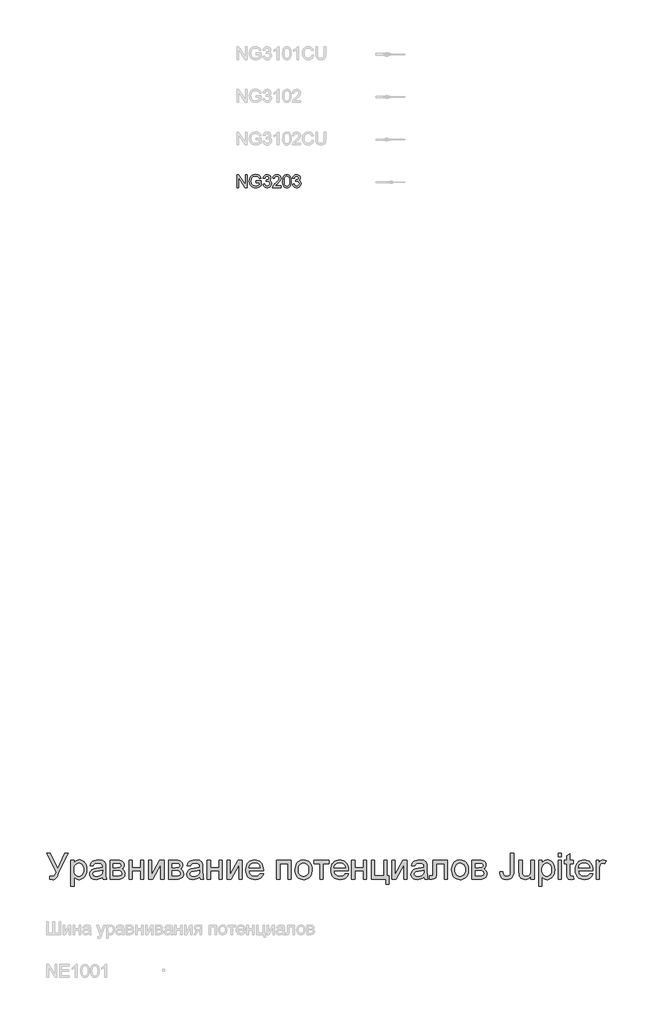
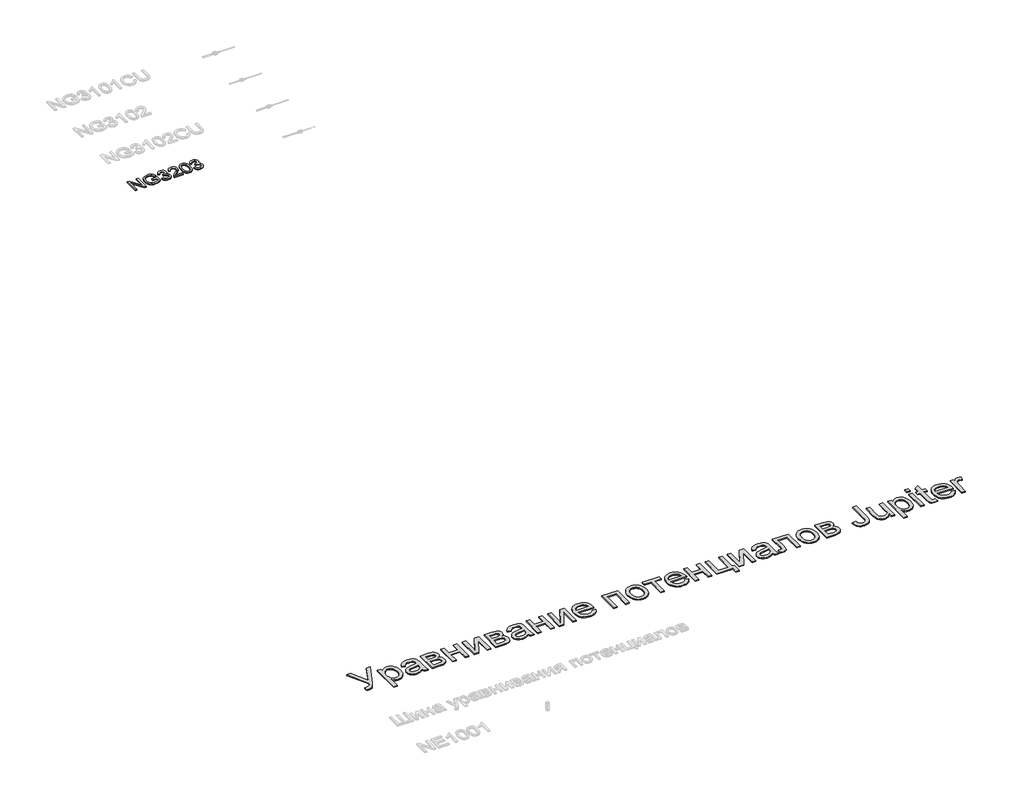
# One storey, part 83 of 124: 2 proxies.
"""IFC4 building model written with IfcOpenShell, lengths in millimetres."""

from ifc_helpers import new_model, si_unit, origin, origin_with_axes, place, context, project, spatial, polyline, outline, extrude, element, save

model = new_model("IFC4")

# Units and contexts
model_context = context("Model", 3, world=origin())
ifc_project = project(units=[si_unit("LENGTHUNIT", "METRE", prefix="MILLI")], contexts=[model_context])

# Site, building, storey
site = spatial("IfcSite", under=ifc_project)
building = spatial("IfcBuilding", under=site)
storey = spatial("IfcBuildingStorey", under=building, Name="Этаж 01", Elevation=0.0)

# Proxies
placement = place(None, origin())
element("IfcBuildingElementProxy", 1, Name="600 мм Arial", ObjectType="600 мм Arial", at=placement, inside=storey, context=model_context, shape_type="SweptSolid", body=[
    extrude(outline(polyline([(45230.4497591, -48171.7605011), (45313.8853956, -48171.7605011), (45494.1475732, -48528.7531892), (45656.3099567, -48171.7605011), (45739.0098292, -48171.7605011), (45510.1872282, -48641.3250797), (45475.6431089, -48714.2392912), (45447.9415946, -48756.6928734), (45434.4863106, -48768.603053), (45418.4006704, -48777.1103242), (45399.6846739, -48782.2146869), (45378.3383211, -48783.9161411), (45347.5465981, -48781.5616963), (45310.5008812, -48774.498362), (45310.5008812, -48708.5739085), (45369.8034588, -48708.5739085), (45393.5318475, -48704.3800537), (45413.8021455, -48691.7984895), (45433.263103, -48664.3177044), (45454.5634705, -48615.4261873), (45230.4497591, -48171.7605011)])), origin_with_axes(), (0.0, 0.0, 1.0), 20.0),
    extrude(outline(polyline([(45800.2253932, -48944.0183854), (45800.2253932, -48331.8627454), (45875.5676258, -48331.8627454), (45875.5676258, -48405.73345), (45900.1421431, -48369.2947384), (45927.6597163, -48343.2670873), (45959.7390263, -48327.6504966), (45997.9987538, -48322.4449663), (46024.2747253, -48324.2659822), (46048.9504101, -48329.7290298), (46072.0258083, -48338.8341092), (46093.5009198, -48351.5812203), (46112.906695, -48367.6392694), (46129.7740845, -48386.6771627), (46144.1030882, -48408.6949001), (46155.8937061, -48433.6924817), (46171.6758437, -48489.2058747), (46176.9365563, -48549.7960393), (46170.995262, -48614.2305708), (46163.5686443, -48643.8956552), (46153.1713794, -48671.8592853), (46139.9460216, -48697.3902958), (46124.0351254, -48719.7575211), (46105.4386905, -48738.9609613), (46084.1567171, -48755.0006163), (46061.2330703, -48767.6511584), (46037.7116152, -48776.6872599), (46013.5923519, -48782.1089208), (45988.8752803, -48783.9161411), (45954.2391905, -48779.0784928), (45923.3187088, -48764.5655481), (45896.8495992, -48742.6581753), (45875.5676258, -48715.6372428), (45875.5676258, -48944.0183854), (45800.2253932, -48944.0183854)]), holes=[polyline([(45875.5676258, -48556.7122209), (45877.6047724, -48593.0221738), (45883.716212, -48624.2553552), (45893.9019447, -48650.411765), (45908.1619706, -48671.4914034), (45925.3282642, -48687.7149993), (45944.2328002, -48699.3032822), (45964.8755787, -48706.2562519), (45987.2565996, -48708.5739085), (46009.9595172, -48706.1734784), (46030.9793747, -48698.9721884), (46050.316172, -48686.9700383), (46067.9699093, -48670.1670282), (46082.6805906, -48648.3240347), (46093.1882201, -48621.2019346), (46099.4927978, -48588.8007279), (46101.5943237, -48551.1204145), (46099.5433815, -48515.1231613), (46093.3905552, -48483.9451622), (46083.1358445, -48457.5864173), (46068.7792497, -48436.0469264), (46051.5715694, -48419.3082957), (46032.7636024, -48407.3521308), (46012.3553487, -48400.1784319), (45990.3468083, -48397.7871989), (45968.4072458, -48400.3301832), (45947.7644674, -48407.9591361), (45928.4184729, -48420.6740576), (45910.3692626, -48438.4749476), (45895.1435465, -48461.1226829), (45884.268035, -48488.3781403), (45877.7427281, -48520.2413196), (45875.5676258, -48556.7122209)])]), origin_with_axes(), (0.0, 0.0, 1.0), 20.0),
    extrude(outline(polyline([(46544.2299402, -48717.9916875), (46508.232687, -48748.8569869), (46471.168576, -48769.0537085), (46432.1914786, -48780.2005329), (46390.4552663, -48783.9161411), (46356.9090268, -48781.681258), (46327.4922628, -48774.9766086), (46302.2049741, -48763.802193), (46281.0471609, -48748.1580111), (46264.3407198, -48729.0373444), (46252.4075476, -48707.4334743), (46245.2476442, -48683.3464006), (46242.8610098, -48656.7761235), (46246.4662534, -48625.5429422), (46257.281984, -48597.1792403), (46273.9654325, -48572.8990286), (46295.1738295, -48553.9163177), (46320.0978347, -48539.5689199), (46347.9281076, -48529.1946476), (46413.1167972, -48517.8638822), (46490.151287, -48505.9445055), (46543.7884819, -48491.9649897), (46544.2299402, -48475.1895707), (46539.0428041, -48441.5651564), (46532.558884, -48429.1123508), (46523.4813957, -48419.5658131), (46507.7912286, -48410.0376694), (46488.679759, -48403.2318525), (46440.192912, -48397.7871989), (46395.3113086, -48401.4108366), (46363.9677626, -48412.2817496), (46342.5938187, -48432.3865006), (46327.6210215, -48463.7116525), (46252.2787889, -48454.2938734), (46265.3569938, -48413.0910899), (46284.8731336, -48380.7174744), (46312.6482243, -48355.9590161), (46350.5032816, -48337.6017045), (46396.8012307, -48326.2341509), (46449.9049967, -48322.4449663), (46500.8382589, -48325.7926925), (46541.2133079, -48335.835871), (46571.655543, -48350.9374269), (46592.7903636, -48369.4602853), (46606.8066676, -48392.3609395), (46615.8933529, -48420.5958826), (46619.5721729, -48486.5203362), (46619.5721729, -48580.2566685), (46623.3981456, -48711.1490824), (46629.0635283, -48743.5043039), (46638.407731, -48774.498362), (46563.0654984, -48774.498362), (46550.998969, -48748.3051639), (46544.2299402, -48717.9916875)]), holes=[polyline([(46544.2299402, -48567.3072223), (46493.6093777, -48579.8519984), (46422.681729, -48590.4102116), (46357.8609215, -48602.6238939), (46340.993532, -48610.9748151), (46328.5039383, -48622.4895216), (46320.7784164, -48636.2850964), (46318.2032424, -48651.4786228), (46323.8134428, -48673.8826363), (46340.6440441, -48692.2399479), (46368.3271643, -48704.4904183), (46406.4949213, -48708.5739085), (46446.9619407, -48704.067354), (46482.7200707, -48690.5476907), (46511.7091719, -48670.6268807), (46531.8691052, -48646.9168861), (46540.8086377, -48622.4895216), (46543.7884819, -48588.644378), (46544.2299402, -48567.3072223)])]), origin_with_axes(), (0.0, 0.0, 1.0), 20.0),
    extrude(outline(polyline([(46723.1677427, -48331.8627454), (46889.1560989, -48331.8627454), (46942.5173823, -48334.3827371), (46980.1701045, -48341.9427121), (47007.8716188, -48356.2165335), (47031.3792783, -48378.8780644), (47047.4373274, -48408.4005945), (47052.7900104, -48443.2574135), (47049.5526488, -48471.3452039), (47039.8405642, -48495.5702333), (47023.6169682, -48516.0428663), (47000.8450727, -48532.8734676), (47028.7305279, -48548.5268465), (47051.4656352, -48573.708369), (47066.5855852, -48606.4314725), (47071.6255685, -48644.7095941), (47067.4409108, -48675.5473023), (47058.8600633, -48702.1359736), (47045.8830259, -48724.4756077), (47028.5097987, -48742.5662048), (47006.7127905, -48756.5365236), (46980.4644101, -48766.5153227), (46949.7646576, -48772.5026022), (46914.613533, -48774.498362), (46723.1677427, -48774.498362), (46723.1677427, -48331.8627454)]), holes=[polyline([(46798.5099753, -48501.3827688), (46872.9692911, -48501.3827688), (46934.4055843, -48497.556796), (46950.2245101, -48491.8178369), (46964.2776023, -48482.252905), (46974.1552339, -48469.5977644), (46977.4477778, -48454.588179), (46976.0038409, -48442.3469056), (46971.6720304, -48432.1105891), (46964.4523463, -48423.8792294), (46954.3447885, -48417.6528267), (46923.0380307, -48409.8169402), (46875.3237359, -48407.204978), (46798.5099753, -48407.204978), (46798.5099753, -48501.3827688)]), polyline([(46798.5099753, -48699.1561294), (46890.9219325, -48699.1561294), (46941.2849776, -48695.7532209), (46972.886041, -48685.5444956), (46982.6808991, -48677.5016754), (46989.845401, -48666.9848489), (46996.2833359, -48638.5291766), (46993.0643685, -48619.6752243), (46983.4074661, -48602.2560119), (46968.5818217, -48588.6259839), (46949.8566281, -48581.1395853), (46883.5642926, -48576.7250014), (46798.5099753, -48576.7250014), (46798.5099753, -48699.1561294)])]), origin_with_axes(), (0.0, 0.0, 1.0), 20.0),
    extrude(outline(polyline([(47165.8033593, -48331.8627454), (47241.1455919, -48331.8627454), (47241.1455919, -48501.3827688), (47438.9189525, -48501.3827688), (47438.9189525, -48331.8627454), (47514.2611851, -48331.8627454), (47514.2611851, -48774.498362), (47438.9189525, -48774.498362), (47438.9189525, -48576.7250014), (47241.1455919, -48576.7250014), (47241.1455919, -48774.498362), (47165.8033593, -48774.498362), (47165.8033593, -48331.8627454)])), origin_with_axes(), (0.0, 0.0, 1.0), 20.0),
    extrude(outline(polyline([(47627.274534, -48331.8627454), (47702.6167667, -48331.8627454), (47702.6167667, -48669.4312642), (47887.7349866, -48331.8627454), (47985.150139, -48331.8627454), (47985.150139, -48774.498362), (47909.8079063, -48774.498362), (47909.8079063, -48438.9899824), (47725.8669088, -48774.498362), (47627.274534, -48774.498362), (47627.274534, -48331.8627454)])), origin_with_axes(), (0.0, 0.0, 1.0), 20.0),
    extrude(outline(polyline([(48098.1634879, -48331.8627454), (48264.1518441, -48331.8627454), (48317.5131275, -48334.3827371), (48355.1658497, -48341.9427121), (48382.8673639, -48356.2165335), (48406.3750234, -48378.8780644), (48422.4330725, -48408.4005945), (48427.7857556, -48443.2574135), (48424.548394, -48471.3452039), (48414.8363093, -48495.5702333), (48398.6127133, -48516.0428663), (48375.8408178, -48532.8734676), (48403.7262731, -48548.5268465), (48426.4613804, -48573.708369), (48441.5813304, -48606.4314725), (48446.6213137, -48644.7095941), (48442.436656, -48675.5473023), (48433.8558085, -48702.1359736), (48420.8787711, -48724.4756077), (48403.5055439, -48742.5662048), (48381.7085357, -48756.5365236), (48355.4601553, -48766.5153227), (48324.7604028, -48772.5026022), (48289.6092782, -48774.498362), (48098.1634879, -48774.498362), (48098.1634879, -48331.8627454)]), holes=[polyline([(48173.5057205, -48501.3827688), (48247.9650363, -48501.3827688), (48309.4013295, -48497.556796), (48325.2202553, -48491.8178369), (48339.2733475, -48482.252905), (48349.1509791, -48469.5977644), (48352.4435229, -48454.588179), (48350.9995861, -48442.3469056), (48346.6677756, -48432.1105891), (48339.4480915, -48423.8792294), (48329.3405336, -48417.6528267), (48298.0337759, -48409.8169402), (48250.3194811, -48407.204978), (48173.5057205, -48407.204978), (48173.5057205, -48501.3827688)]), polyline([(48173.5057205, -48699.1561294), (48265.9176777, -48699.1561294), (48316.2807228, -48695.7532209), (48347.8817862, -48685.5444956), (48357.6766443, -48677.5016754), (48364.8411462, -48666.9848489), (48371.2790811, -48638.5291766), (48368.0601136, -48619.6752243), (48358.4032113, -48602.2560119), (48343.5775669, -48588.6259839), (48324.8523733, -48581.1395853), (48258.5600378, -48576.7250014), (48173.5057205, -48576.7250014), (48173.5057205, -48699.1561294)])]), origin_with_axes(), (0.0, 0.0, 1.0), 20.0),
    extrude(outline(polyline([(48823.3324768, -48717.9916875), (48787.3352235, -48748.8569869), (48750.2711125, -48769.0537085), (48711.2940151, -48780.2005329), (48669.5578028, -48783.9161411), (48636.0115633, -48781.681258), (48606.5947993, -48774.9766086), (48581.3075107, -48763.802193), (48560.1496974, -48748.1580111), (48543.4432563, -48729.0373444), (48531.5100841, -48707.4334743), (48524.3501808, -48683.3464006), (48521.9635463, -48656.7761235), (48525.5687899, -48625.5429422), (48536.3845205, -48597.1792403), (48553.067969, -48572.8990286), (48574.276366, -48553.9163177), (48599.2003712, -48539.5689199), (48627.0306441, -48529.1946476), (48692.2193337, -48517.8638822), (48769.2538235, -48505.9445055), (48822.8910184, -48491.9649897), (48823.3324768, -48475.1895707), (48818.1453406, -48441.5651564), (48811.6614205, -48429.1123508), (48802.5839322, -48419.5658131), (48786.8937651, -48410.0376694), (48767.7822955, -48403.2318525), (48719.2954485, -48397.7871989), (48674.4138451, -48401.4108366), (48643.0702991, -48412.2817496), (48621.6963552, -48432.3865006), (48606.723558, -48463.7116525), (48531.3813254, -48454.2938734), (48544.4595303, -48413.0910899), (48563.9756702, -48380.7174744), (48591.7507608, -48355.9590161), (48629.6058181, -48337.6017045), (48675.9037672, -48326.2341509), (48729.0075332, -48322.4449663), (48779.9407954, -48325.7926925), (48820.3158444, -48335.835871), (48850.7580795, -48350.9374269), (48871.8929001, -48369.4602853), (48885.9092041, -48392.3609395), (48894.9958894, -48420.5958826), (48898.6747094, -48486.5203362), (48898.6747094, -48580.2566685), (48902.5006821, -48711.1490824), (48908.1660649, -48743.5043039), (48917.5102675, -48774.498362), (48842.1680349, -48774.498362), (48830.1015055, -48748.3051639), (48823.3324768, -48717.9916875)]), holes=[polyline([(48823.3324768, -48567.3072223), (48772.7119142, -48579.8519984), (48701.7842656, -48590.4102116), (48636.963458, -48602.6238939), (48620.0960685, -48610.9748151), (48607.6064748, -48622.4895216), (48599.8809529, -48636.2850964), (48597.3057789, -48651.4786228), (48602.9159794, -48673.8826363), (48619.7465806, -48692.2399479), (48647.4297008, -48704.4904183), (48685.5974578, -48708.5739085), (48726.0644772, -48704.067354), (48761.8226072, -48690.5476907), (48790.8117084, -48670.6268807), (48810.9716417, -48646.9168861), (48819.9111742, -48622.4895216), (48822.8910184, -48588.644378), (48823.3324768, -48567.3072223)])]), origin_with_axes(), (0.0, 0.0, 1.0), 20.0),
    extrude(outline(polyline([(49002.2702792, -48331.8627454), (49077.6125118, -48331.8627454), (49077.6125118, -48501.3827688), (49275.3858724, -48501.3827688), (49275.3858724, -48331.8627454), (49350.7281051, -48331.8627454), (49350.7281051, -48774.498362), (49275.3858724, -48774.498362), (49275.3858724, -48576.7250014), (49077.6125118, -48576.7250014), (49077.6125118, -48774.498362), (49002.2702792, -48774.498362), (49002.2702792, -48331.8627454)])), origin_with_axes(), (0.0, 0.0, 1.0), 20.0),
    extrude(outline(polyline([(49463.741454, -48331.8627454), (49539.0836866, -48331.8627454), (49539.0836866, -48669.4312642), (49724.2019066, -48331.8627454), (49821.6170589, -48331.8627454), (49821.6170589, -48774.498362), (49746.2748263, -48774.498362), (49746.2748263, -48438.9899824), (49562.3338287, -48774.498362), (49463.741454, -48774.498362), (49463.741454, -48331.8627454)])), origin_with_axes(), (0.0, 0.0, 1.0), 20.0),
    extrude(outline(polyline([(50244.5342005, -48642.6494549), (50318.4049052, -48652.067234), (50307.0787382, -48681.6541435), (50291.7886428, -48707.7277799), (50272.5346189, -48730.2881432), (50249.3166665, -48749.3352335), (50222.3739088, -48764.4643806), (50191.9454693, -48775.2709142), (50158.0313479, -48781.7548344), (50120.6315446, -48783.9161411), (50073.88294, -48780.1867374), (50032.2295011, -48768.9985262), (49995.6712278, -48750.3515075), (49964.2081202, -48724.2456815), (49938.907036, -48691.4076149), (49920.834833, -48652.5638747), (49909.9915112, -48607.714461), (49906.3770706, -48556.8593737), (49910.0282994, -48504.2798395), (49920.9819858, -48457.9359052), (49939.2381298, -48417.8275706), (49964.7967314, -48383.9548359), (49996.1770656, -48357.044268), (50031.8984073, -48337.8224337), (50071.9607566, -48326.2893332), (50116.3641134, -48322.4449663), (50159.337329, -48326.2801361), (50198.1994632, -48337.7856455), (50232.9505162, -48356.9614945), (50263.5904879, -48383.8076831), (50288.601865, -48417.6068414), (50306.4671344, -48457.6415996), (50317.1862961, -48503.9119575), (50320.7593499, -48556.4179153), (50320.3178915, -48576.7250014), (49981.7193032, -48576.7250014), (49986.0833033, -48606.7901575), (49994.7607199, -48633.1213113), (50007.7515529, -48655.7184628), (50025.0558022, -48674.5816121), (50045.7169748, -48689.4532418), (50068.7785773, -48700.0758344), (50094.2406099, -48706.4493899), (50122.1030725, -48708.5739085), (50162.20221, -48704.6375711), (50195.9737772, -48692.8285591), (50223.417774, -48672.4111083), (50244.5342005, -48642.6494549)]), holes=[polyline([(49981.7193032, -48501.3827688), (50245.4171173, -48501.3827688), (50235.2267861, -48461.5779369), (50226.4619975, -48445.924558), (50215.2507937, -48433.1038705), (50194.7045843, -48417.6528267), (50171.3256835, -48406.6163668), (50145.1140913, -48399.9944909), (50116.0698078, -48397.7871989), (50089.5777056, -48399.548434), (50065.2836984, -48404.8321391), (50043.187786, -48413.6383144), (50023.2899686, -48425.9669598), (50006.5927246, -48441.2478581), (49994.0985323, -48458.9107924), (49985.8073919, -48478.9557627), (49981.7193032, -48501.3827688)])]), origin_with_axes(), (0.0, 0.0, 1.0), 20.0),
    extrude(outline(polyline([(50631.5460595, -48331.8627454), (50970.5861062, -48331.8627454), (50970.5861062, -48774.498362), (50895.2438736, -48774.498362), (50895.2438736, -48407.204978), (50706.8882921, -48407.204978), (50706.8882921, -48774.498362), (50631.5460595, -48774.498362), (50631.5460595, -48331.8627454)])), origin_with_axes(), (0.0, 0.0, 1.0), 20.0),
    extrude(outline(polyline([(51064.763897, -48553.1805537), (51068.8381901, -48495.8553418), (51081.0610694, -48446.4579869), (51101.4325348, -48404.988489), (51129.9525865, -48371.4468481), (51158.6657762, -48350.0085248), (51190.3588101, -48334.6954368), (51225.0316882, -48325.5075839), (51262.6844104, -48322.4449663), (51304.2504773, -48326.1743701), (51341.8342216, -48337.3625812), (51375.4356434, -48356.0095999), (51405.0547425, -48382.1154259), (51429.2291881, -48414.7971427), (51446.4966493, -48453.1718333), (51456.857126, -48497.2394978), (51460.3106182, -48547.0001362), (51458.7839079, -48587.3291999), (51454.2037771, -48623.114921), (51446.5702257, -48654.3572994), (51435.8832537, -48681.0563352), (51422.2762184, -48704.1179378), (51405.882477, -48724.4480166), (51386.7020295, -48742.0465715), (51364.7348758, -48756.9136026), (51340.8363417, -48768.7272132), (51315.8617528, -48777.1655065), (51289.811109, -48782.2284824), (51262.6844104, -48783.9161411), (51220.5113382, -48780.2005329), (51182.5781059, -48769.0537085), (51148.8847137, -48750.4756677), (51119.4311615, -48724.4664107), (51095.5142333, -48691.4673957), (51078.4307131, -48651.9200812), (51068.180601, -48605.8244672), (51064.763897, -48553.1805537)]), holes=[polyline([(51140.1061296, -48553.0334009), (51142.2858304, -48589.5778786), (51148.8249329, -48621.2203287), (51159.723437, -48647.9607512), (51174.9813427, -48669.7991462), (51193.5409894, -48686.7631047), (51214.3447162, -48698.8802179), (51237.3925232, -48706.1504858), (51262.6844104, -48708.5739085), (51287.8475389, -48706.1366902), (51310.8033754, -48698.8250356), (51331.5519199, -48686.6389445), (51350.0931724, -48669.578417), (51365.3510782, -48647.5238914), (51376.2495823, -48620.355806), (51382.7886848, -48588.0741609), (51384.9683856, -48550.6789561), (51382.7748892, -48515.2933067), (51376.1944, -48484.4785911), (51365.226918, -48458.2348093), (51349.8724432, -48436.5619612), (51331.2622128, -48419.5980027), (51310.5274639, -48407.4808895), (51287.6681964, -48400.2106216), (51262.6844104, -48397.7871989), (51237.3925232, -48400.2014245), (51214.3447162, -48407.4441013), (51193.5409894, -48419.5152293), (51174.9813427, -48436.4148084), (51159.723437, -48458.188824), (51148.8249329, -48484.8832613), (51142.2858304, -48516.4981203), (51140.1061296, -48553.0334009)])]), origin_with_axes(), (0.0, 0.0, 1.0), 20.0),
    extrude(outline(polyline([(51507.3995136, -48331.8627454), (51865.2751185, -48331.8627454), (51865.2751185, -48407.204978), (51724.0084323, -48407.204978), (51724.0084323, -48774.498362), (51648.6661997, -48774.498362), (51648.6661997, -48407.204978), (51507.3995136, -48407.204978), (51507.3995136, -48331.8627454)])), origin_with_axes(), (0.0, 0.0, 1.0), 20.0),
    extrude(outline(polyline([(52241.1033648, -48642.6494549), (52314.9740694, -48652.067234), (52303.6479025, -48681.6541435), (52288.357807, -48707.7277799), (52269.1037831, -48730.2881432), (52245.8858307, -48749.3352335), (52218.9430731, -48764.4643806), (52188.5146335, -48775.2709142), (52154.6005121, -48781.7548344), (52117.2007088, -48783.9161411), (52070.4521042, -48780.1867374), (52028.7986653, -48768.9985262), (51992.2403921, -48750.3515075), (51960.7772844, -48724.2456815), (51935.4762002, -48691.4076149), (51917.4039972, -48652.5638747), (51906.5606754, -48607.714461), (51902.9462348, -48556.8593737), (51906.5974636, -48504.2798395), (51917.55115, -48457.9359052), (51935.807294, -48417.8275706), (51961.3658956, -48383.9548359), (51992.7462298, -48357.044268), (52028.4675715, -48337.8224337), (52068.5299208, -48326.2893332), (52112.9332776, -48322.4449663), (52155.9064932, -48326.2801361), (52194.7686275, -48337.7856455), (52229.5196804, -48356.9614945), (52260.1596521, -48383.8076831), (52285.1710293, -48417.6068414), (52303.0362986, -48457.6415996), (52313.7554603, -48503.9119575), (52317.3285142, -48556.4179153), (52316.8870558, -48576.7250014), (51978.2884674, -48576.7250014), (51982.6524676, -48606.7901575), (51991.3298841, -48633.1213113), (52004.3207171, -48655.7184628), (52021.6249664, -48674.5816121), (52042.286139, -48689.4532418), (52065.3477416, -48700.0758344), (52090.8097742, -48706.4493899), (52118.6722368, -48708.5739085), (52158.7713742, -48704.6375711), (52192.5429414, -48692.8285591), (52219.9869382, -48672.4111083), (52241.1033648, -48642.6494549)]), holes=[polyline([(51978.2884674, -48501.3827688), (52241.9862815, -48501.3827688), (52231.7959503, -48461.5779369), (52223.0311617, -48445.924558), (52211.8199579, -48433.1038705), (52191.2737485, -48417.6528267), (52167.8948477, -48406.6163668), (52141.6832556, -48399.9944909), (52112.638972, -48397.7871989), (52086.1468699, -48399.548434), (52061.8528626, -48404.8321391), (52039.7569503, -48413.6383144), (52019.8591329, -48425.9669598), (52003.1618888, -48441.2478581), (51990.6676965, -48458.9107924), (51982.3765561, -48478.9557627), (51978.2884674, -48501.3827688)])]), origin_with_axes(), (0.0, 0.0, 1.0), 20.0),
    extrude(outline(polyline([(52392.6707468, -48331.8627454), (52468.0129794, -48331.8627454), (52468.0129794, -48501.3827688), (52665.78634, -48501.3827688), (52665.78634, -48331.8627454), (52741.1285726, -48331.8627454), (52741.1285726, -48774.498362), (52665.78634, -48774.498362), (52665.78634, -48576.7250014), (52468.0129794, -48576.7250014), (52468.0129794, -48774.498362), (52392.6707468, -48774.498362), (52392.6707468, -48331.8627454)])), origin_with_axes(), (0.0, 0.0, 1.0), 20.0),
    extrude(outline(polyline([(52854.1419215, -48331.8627454), (52929.4841541, -48331.8627454), (52929.4841541, -48699.1561294), (53146.0930729, -48699.1561294), (53146.0930729, -48331.8627454), (53221.4353055, -48331.8627454), (53221.4353055, -48699.1561294), (53268.5242009, -48699.1561294), (53268.5242009, -48896.92949), (53193.1819683, -48896.92949), (53193.1819683, -48774.498362), (52854.1419215, -48774.498362), (52854.1419215, -48331.8627454)])), origin_with_axes(), (0.0, 0.0, 1.0), 20.0),
    extrude(outline(polyline([(53334.4486544, -48331.8627454), (53409.790887, -48331.8627454), (53409.790887, -48669.4312642), (53594.909107, -48331.8627454), (53692.3242593, -48331.8627454), (53692.3242593, -48774.498362), (53616.9820267, -48774.498362), (53616.9820267, -48438.9899824), (53433.0410291, -48774.498362), (53334.4486544, -48774.498362), (53334.4486544, -48331.8627454)])), origin_with_axes(), (0.0, 0.0, 1.0), 20.0),
    extrude(outline(polyline([(54087.8709805, -48717.9916875), (54051.8737273, -48748.8569869), (54014.8096163, -48769.0537085), (53975.8325189, -48780.2005329), (53934.0963066, -48783.9161411), (53900.5500671, -48781.681258), (53871.1333031, -48774.9766086), (53845.8460144, -48763.802193), (53824.6882012, -48748.1580111), (53807.9817601, -48729.0373444), (53796.0485879, -48707.4334743), (53788.8886845, -48683.3464006), (53786.5020501, -48656.7761235), (53790.1072936, -48625.5429422), (53800.9230243, -48597.1792403), (53817.6064728, -48572.8990286), (53838.8148698, -48553.9163177), (53863.738875, -48539.5689199), (53891.5691479, -48529.1946476), (53956.7578375, -48517.8638822), (54033.7923273, -48505.9445055), (54087.4295222, -48491.9649897), (54087.8709805, -48475.1895707), (54082.6838444, -48441.5651564), (54076.1999242, -48429.1123508), (54067.122436, -48419.5658131), (54051.4322689, -48410.0376694), (54032.3207993, -48403.2318525), (53983.8339523, -48397.7871989), (53938.9523489, -48401.4108366), (53907.6088029, -48412.2817496), (53886.234859, -48432.3865006), (53871.2620618, -48463.7116525), (53795.9198292, -48454.2938734), (53808.9980341, -48413.0910899), (53828.5141739, -48380.7174744), (53856.2892646, -48355.9590161), (53894.1443219, -48337.6017045), (53940.442271, -48326.2341509), (53993.546037, -48322.4449663), (54044.4792992, -48325.7926925), (54084.8543482, -48335.835871), (54115.2965833, -48350.9374269), (54136.4314039, -48369.4602853), (54150.4477079, -48392.3609395), (54159.5343932, -48420.5958826), (54163.2132132, -48486.5203362), (54163.2132132, -48580.2566685), (54167.0391859, -48711.1490824), (54172.7045686, -48743.5043039), (54182.0487713, -48774.498362), (54106.7065387, -48774.498362), (54094.6400093, -48748.3051639), (54087.8709805, -48717.9916875)]), holes=[polyline([(54087.8709805, -48567.3072223), (54037.250418, -48579.8519984), (53966.3227693, -48590.4102116), (53901.5019618, -48602.6238939), (53884.6345723, -48610.9748151), (53872.1449786, -48622.4895216), (53864.4194567, -48636.2850964), (53861.8442827, -48651.4786228), (53867.4544831, -48673.8826363), (53884.2850844, -48692.2399479), (53911.9682046, -48704.4904183), (53950.1359616, -48708.5739085), (53990.602981, -48704.067354), (54026.361111, -48690.5476907), (54055.3502122, -48670.6268807), (54075.5101455, -48646.9168861), (54084.449678, -48622.4895216), (54087.4295222, -48588.644378), (54087.8709805, -48567.3072223)])]), origin_with_axes(), (0.0, 0.0, 1.0), 20.0),
    extrude(outline(polyline([(54304.4798993, -48331.8627454), (54643.5199461, -48331.8627454), (54643.5199461, -48774.0569036), (54568.1777134, -48774.0569036), (54568.1777134, -48407.204978), (54379.8221319, -48407.204978), (54379.8221319, -48618.3692432), (54378.552939, -48679.6583836), (54374.7453604, -48715.7843956), (54365.2356108, -48737.8389212), (54346.8599051, -48756.9136026), (54318.9744499, -48770.1021722), (54280.9354516, -48774.498362), (54219.7198876, -48770.6723893), (54219.7198876, -48699.1561294), (54253.4178784, -48699.1561294), (54273.8537232, -48697.9973011), (54287.4837511, -48694.5208163), (54296.0002193, -48688.5243397), (54301.0953849, -48679.8055364), (54304.4798993, -48614.1018121), (54304.4798993, -48331.8627454)])), origin_with_axes(), (0.0, 0.0, 1.0), 20.0),
    extrude(outline(polyline([(54737.6977368, -48553.1805537), (54741.7720299, -48495.8553418), (54753.9949092, -48446.4579869), (54774.3663747, -48404.988489), (54802.8864264, -48371.4468481), (54831.5996161, -48350.0085248), (54863.29265, -48334.6954368), (54897.965528, -48325.5075839), (54935.6182502, -48322.4449663), (54977.1843172, -48326.1743701), (55014.7680615, -48337.3625812), (55048.3694832, -48356.0095999), (55077.9885824, -48382.1154259), (55102.163028, -48414.7971427), (55119.4304891, -48453.1718333), (55129.7909658, -48497.2394978), (55133.244458, -48547.0001362), (55131.7177478, -48587.3291999), (55127.1376169, -48623.114921), (55119.5040655, -48654.3572994), (55108.8170936, -48681.0563352), (55095.2100583, -48704.1179378), (55078.8163169, -48724.4480166), (55059.6358693, -48742.0465715), (55037.6687157, -48756.9136026), (55013.7701816, -48768.7272132), (54988.7955926, -48777.1655065), (54962.7449488, -48782.2284824), (54935.6182502, -48783.9161411), (54893.445178, -48780.2005329), (54855.5119458, -48769.0537085), (54821.8185535, -48750.4756677), (54792.3650013, -48724.4664107), (54768.4480731, -48691.4673957), (54751.3645529, -48651.9200812), (54741.1144409, -48605.8244672), (54737.6977368, -48553.1805537)]), holes=[polyline([(54813.0399694, -48553.0334009), (54815.2196703, -48589.5778786), (54821.7587727, -48621.2203287), (54832.6572768, -48647.9607512), (54847.9151826, -48669.7991462), (54866.4748292, -48686.7631047), (54887.2785561, -48698.8802179), (54910.3263631, -48706.1504858), (54935.6182502, -48708.5739085), (54960.7813787, -48706.1366902), (54983.7372152, -48698.8250356), (55004.4857597, -48686.6389445), (55023.0270123, -48669.578417), (55038.284918, -48647.5238914), (55049.1834221, -48620.355806), (55055.7225246, -48588.0741609), (55057.9022254, -48550.6789561), (55055.708729, -48515.2933067), (55049.1282398, -48484.4785911), (55038.1607579, -48458.2348093), (55022.8062831, -48436.5619612), (55004.1960527, -48419.5980027), (54983.4613037, -48407.4808895), (54960.6020362, -48400.2106216), (54935.6182502, -48397.7871989), (54910.3263631, -48400.2014245), (54887.2785561, -48407.4441013), (54866.4748292, -48419.5152293), (54847.9151826, -48436.4148084), (54832.6572768, -48458.188824), (54821.7587727, -48484.8832613), (54815.2196703, -48516.4981203), (54813.0399694, -48553.0334009)])]), origin_with_axes(), (0.0, 0.0, 1.0), 20.0),
    extrude(outline(polyline([(55218.0044697, -48331.8627454), (55383.992826, -48331.8627454), (55437.3541094, -48334.3827371), (55475.0068316, -48341.9427121), (55502.7083458, -48356.2165335), (55526.2160053, -48378.8780644), (55542.2740544, -48408.4005945), (55547.6267374, -48443.2574135), (55544.3893758, -48471.3452039), (55534.6772912, -48495.5702333), (55518.4536952, -48516.0428663), (55495.6817997, -48532.8734676), (55523.5672549, -48548.5268465), (55546.3023622, -48573.708369), (55561.4223122, -48606.4314725), (55566.4622956, -48644.7095941), (55562.2776379, -48675.5473023), (55553.6967903, -48702.1359736), (55540.7197529, -48724.4756077), (55523.3465257, -48742.5662048), (55501.5495175, -48756.5365236), (55475.3011372, -48766.5153227), (55444.6013847, -48772.5026022), (55409.45026, -48774.498362), (55218.0044697, -48774.498362), (55218.0044697, -48331.8627454)]), holes=[polyline([(55293.3467023, -48501.3827688), (55367.8060182, -48501.3827688), (55429.2423114, -48497.556796), (55445.0612372, -48491.8178369), (55459.1143294, -48482.252905), (55468.9919609, -48469.5977644), (55472.2845048, -48454.588179), (55470.840568, -48442.3469056), (55466.5087575, -48432.1105891), (55459.2890733, -48423.8792294), (55449.1815155, -48417.6528267), (55417.8747577, -48409.8169402), (55370.1604629, -48407.204978), (55293.3467023, -48407.204978), (55293.3467023, -48501.3827688)]), polyline([(55293.3467023, -48699.1561294), (55385.7586595, -48699.1561294), (55436.1217047, -48695.7532209), (55467.7227681, -48685.5444956), (55477.5176262, -48677.5016754), (55484.682128, -48666.9848489), (55491.1200629, -48638.5291766), (55487.9010955, -48619.6752243), (55478.2441931, -48602.2560119), (55463.4185487, -48588.6259839), (55444.6933552, -48581.1395853), (55378.4010196, -48576.7250014), (55293.3467023, -48576.7250014), (55293.3467023, -48699.1561294)])]), origin_with_axes(), (0.0, 0.0, 1.0), 20.0),
    extrude(outline(polyline([(55867.831226, -48605.2726442), (55943.1734586, -48595.5605595), (55945.831406, -48625.515351), (55951.0093451, -48650.3381886), (55958.7072759, -48670.0290724), (55968.9251983, -48684.5880024), (55981.5067625, -48695.0818363), (55996.2956187, -48702.5774319), (56013.2917669, -48707.0747893), (56032.495207, -48708.5739085), (56060.32548, -48705.171), (56084.0722628, -48694.9622746), (56102.3927861, -48678.8858315), (56113.9442808, -48657.8797695), (56120.069516, -48627.4743226), (56122.1112611, -48583.1997245), (56122.1112611, -48171.7605011), (56197.4534937, -48171.7605011), (56197.4534937, -48581.8753493), (56192.910151, -48648.9586311), (56187.2309727, -48676.0853298), (56179.2801231, -48698.9354002), (56168.8598656, -48718.4193504), (56155.7724636, -48735.4476882), (56140.0179172, -48750.0204137), (56121.5962263, -48762.137527), (56078.6827915, -48778.4714875), (56028.9635399, -48783.9161411), (55991.8350495, -48781.1064423), (55959.3234782, -48772.6773461), (55931.4288259, -48758.6288524), (55908.1510927, -48738.9609613), (55889.9041457, -48713.747249), (55877.1018523, -48683.0612921), (55869.7442124, -48646.9030905), (55867.831226, -48605.2726442)])), origin_with_axes(), (0.0, 0.0, 1.0), 20.0),
    extrude(outline(polyline([(56602.417994, -48774.498362), (56602.417994, -48698.4203654), (56575.1579381, -48735.8247673), (56543.409722, -48762.5421972), (56507.1733454, -48778.5726551), (56466.4488086, -48783.9161411), (56429.7525795, -48780.1637447), (56395.5947363, -48768.9065557), (56366.9367289, -48751.9839839), (56346.7400073, -48731.2354394), (56333.1467676, -48706.0355227), (56324.2992056, -48675.7588345), (56319.8846217, -48605.7141026), (56319.8846217, -48331.8627454), (56395.2268543, -48331.8627454), (56395.2268543, -48570.2502783), (56396.3672885, -48617.9277849), (56399.788591, -48647.0640389), (56410.7698686, -48672.6870198), (56429.5870326, -48692.1663715), (56454.9892844, -48704.4720242), (56485.7258251, -48708.5739085), (56518.2281994, -48704.3800537), (56548.6336463, -48691.7984895), (56573.7048043, -48671.988044), (56590.2043117, -48646.1075457), (56599.3645734, -48610.6621154), (56602.417994, -48562.1568744), (56602.417994, -48331.8627454), (56677.7602266, -48331.8627454), (56677.7602266, -48774.498362), (56602.417994, -48774.498362)])), origin_with_axes(), (0.0, 0.0, 1.0), 20.0),
    extrude(outline(polyline([(56781.3557964, -48944.0183854), (56781.3557964, -48331.8627454), (56856.698029, -48331.8627454), (56856.698029, -48405.73345), (56881.2725463, -48369.2947384), (56908.7901196, -48343.2670873), (56940.8694295, -48327.6504966), (56979.129157, -48322.4449663), (57005.4051285, -48324.2659822), (57030.0808134, -48329.7290298), (57053.1562115, -48338.8341092), (57074.631323, -48351.5812203), (57094.0370982, -48367.6392694), (57110.9044877, -48386.6771627), (57125.2334914, -48408.6949001), (57137.0241094, -48433.6924817), (57152.806247, -48489.2058747), (57158.0669595, -48549.7960393), (57152.1256653, -48614.2305708), (57144.6990475, -48643.8956552), (57134.3017826, -48671.8592853), (57121.0764249, -48697.3902958), (57105.1655286, -48719.7575211), (57086.5690937, -48738.9609613), (57065.2871203, -48755.0006163), (57042.3634735, -48767.6511584), (57018.8420184, -48776.6872599), (56994.7227551, -48782.1089208), (56970.0056836, -48783.9161411), (56935.3695937, -48779.0784928), (56904.449112, -48764.5655481), (56877.9800025, -48742.6581753), (56856.698029, -48715.6372428), (56856.698029, -48944.0183854), (56781.3557964, -48944.0183854)]), holes=[polyline([(56856.698029, -48556.7122209), (56858.7351756, -48593.0221738), (56864.8466152, -48624.2553552), (56875.032348, -48650.411765), (56889.2923738, -48671.4914034), (56906.4586674, -48687.7149993), (56925.3632034, -48699.3032822), (56946.0059819, -48706.2562519), (56968.3870028, -48708.5739085), (56991.0899204, -48706.1734784), (57012.1097779, -48698.9721884), (57031.4465753, -48686.9700383), (57049.1003125, -48670.1670282), (57063.8109938, -48648.3240347), (57074.3186233, -48621.2019346), (57080.623201, -48588.8007279), (57082.7247269, -48551.1204145), (57080.6737848, -48515.1231613), (57074.5209584, -48483.9451622), (57064.2662478, -48457.5864173), (57049.9096529, -48436.0469264), (57032.7019726, -48419.3082957), (57013.8940056, -48407.3521308), (56993.4857519, -48400.1784319), (56971.4772115, -48397.7871989), (56949.5376491, -48400.3301832), (56928.8948706, -48407.9591361), (56909.5488762, -48420.6740576), (56891.4996658, -48438.4749476), (56876.2739497, -48461.1226829), (56865.3984382, -48488.3781403), (56858.8731313, -48520.2413196), (56856.698029, -48556.7122209)])]), origin_with_axes(), (0.0, 0.0, 1.0), 20.0),
    extrude(outline(polyline([(57242.8269712, -48247.1027337), (57242.8269712, -48171.7605011), (57318.1692038, -48171.7605011), (57318.1692038, -48247.1027337), (57242.8269712, -48247.1027337)])), origin_with_axes(), (0.0, 0.0, 1.0), 20.0),
    extrude(outline(polyline([(57242.8269712, -48774.498362), (57242.8269712, -48331.8627454), (57318.1692038, -48331.8627454), (57318.1692038, -48774.498362), (57242.8269712, -48774.498362)])), origin_with_axes(), (0.0, 0.0, 1.0), 20.0),
    extrude(outline(polyline([(57591.284797, -48711.6641172), (57600.7025761, -48776.705654), (57544.3430544, -48783.9161411), (57508.1802543, -48780.7891441), (57481.2145041, -48771.4081532), (57462.1582167, -48756.9503908), (57449.7238053, -48738.5930793), (57442.8812002, -48707.0655923), (57440.6003318, -48653.0973036), (57440.6003318, -48407.204978), (57384.0936573, -48407.204978), (57384.0936573, -48331.8627454), (57440.6003318, -48331.8627454), (57440.6003318, -48224.29405), (57515.9425644, -48180.0010578), (57515.9425644, -48331.8627454), (57591.284797, -48331.8627454), (57591.284797, -48407.204978), (57515.9425644, -48407.204978), (57515.9425644, -48650.8900116), (57519.9156899, -48689.7383503), (57532.7915598, -48703.4971369), (57543.6624727, -48707.3047156), (57558.469723, -48708.5739085), (57591.284797, -48711.6641172)])), origin_with_axes(), (0.0, 0.0, 1.0), 20.0),
    extrude(outline(polyline([(57976.5308224, -48642.6494549), (58050.401527, -48652.067234), (58039.0753601, -48681.6541435), (58023.7852646, -48707.7277799), (58004.5312407, -48730.2881432), (57981.3132883, -48749.3352335), (57954.3705307, -48764.4643806), (57923.9420912, -48775.2709142), (57890.0279697, -48781.7548344), (57852.6281664, -48783.9161411), (57805.8795618, -48780.1867374), (57764.2261229, -48768.9985262), (57727.6678497, -48750.3515075), (57696.204742, -48724.2456815), (57670.9036578, -48691.4076149), (57652.8314548, -48652.5638747), (57641.988133, -48607.714461), (57638.3736924, -48556.8593737), (57642.0249212, -48504.2798395), (57652.9786076, -48457.9359052), (57671.2347516, -48417.8275706), (57696.7933532, -48383.9548359), (57728.1736874, -48357.044268), (57763.8950291, -48337.8224337), (57803.9573784, -48326.2893332), (57848.3607352, -48322.4449663), (57891.3339508, -48326.2801361), (57930.1960851, -48337.7856455), (57964.947138, -48356.9614945), (57995.5871097, -48383.8076831), (58020.5984869, -48417.6068414), (58038.4637563, -48457.6415996), (58049.1829179, -48503.9119575), (58052.7559718, -48556.4179153), (58052.3145134, -48576.7250014), (57713.715925, -48576.7250014), (57718.0799252, -48606.7901575), (57726.7573417, -48633.1213113), (57739.7481747, -48655.7184628), (57757.052424, -48674.5816121), (57777.7135966, -48689.4532418), (57800.7751992, -48700.0758344), (57826.2372318, -48706.4493899), (57854.0996944, -48708.5739085), (57894.1988318, -48704.6375711), (57927.970399, -48692.8285591), (57955.4143958, -48672.4111083), (57976.5308224, -48642.6494549)]), holes=[polyline([(57713.715925, -48501.3827688), (57977.4137392, -48501.3827688), (57967.2234079, -48461.5779369), (57958.4586193, -48445.924558), (57947.2474155, -48433.1038705), (57926.7012061, -48417.6528267), (57903.3223053, -48406.6163668), (57877.1107132, -48399.9944909), (57848.0664296, -48397.7871989), (57821.5743275, -48399.548434), (57797.2803202, -48404.8321391), (57775.1844079, -48413.6383144), (57755.2865905, -48425.9669598), (57738.5893464, -48441.2478581), (57726.0951541, -48458.9107924), (57717.8040137, -48478.9557627), (57713.715925, -48501.3827688)])]), origin_with_axes(), (0.0, 0.0, 1.0), 20.0),
    extrude(outline(polyline([(58128.0982044, -48774.498362), (58128.0982044, -48331.8627454), (58194.0226579, -48331.8627454), (58194.0226579, -48397.3457405), (58218.376446, -48359.3803186), (58240.8172477, -48337.0130933), (58263.3316258, -48326.0869981), (58287.9061431, -48322.4449663), (58325.4301066, -48328.2575019), (58363.5426813, -48345.6951084), (58338.3795528, -48413.2382427), (58311.8920492, -48401.6499599), (58285.4045455, -48397.7871989), (58262.9085615, -48401.5028071), (58242.8038105, -48412.6496315), (58226.5618204, -48430.3815437), (58215.6541192, -48453.852415), (58206.4938575, -48495.9381153), (58203.440437, -48541.8497883), (58203.440437, -48774.498362), (58128.0982044, -48774.498362)])), origin_with_axes(), (0.0, 0.0, 1.0), 20.0),
])
element("IfcBuildingElementProxy", 2, Name="300", ObjectType="300", at=placement, inside=storey, context=model_context, shape_type="SweptSolid", body=[
    extrude(outline(polyline([(49699.8220677, -32554.4308483), (49699.8220677, -32253.0619179), (49740.1419344, -32253.0619179), (49897.5954283, -32491.8173327), (49897.5954283, -32253.0619179), (49935.2665446, -32253.0619179), (49935.2665446, -32554.4308483), (49894.9466779, -32554.4308483), (49737.493184, -32315.601857), (49737.493184, -32554.4308483), (49699.8220677, -32554.4308483)])), origin_with_axes(), (0.0, 0.0, 1.0), 20.0),
    extrude(outline(polyline([(50142.4576843, -32436.7086099), (50142.4576843, -32399.0374936), (50264.8888123, -32399.0374936), (50264.8888123, -32511.6829605), (50235.1363559, -32532.3763227), (50204.4458005, -32547.2203612), (50172.8907223, -32556.1598937), (50140.5446979, -32559.1397379), (50098.2842537, -32554.4032572), (50060.0889056, -32540.1938151), (50028.3590835, -32517.0080524), (50005.4952175, -32485.3426096), (49991.6720515, -32447.3587936), (49987.0643295, -32405.2179111), (49991.6536574, -32362.7735259), (50005.4216411, -32323.2905907), (50027.7980634, -32290.1720141), (50058.2127074, -32266.8207045), (50095.2584243, -32252.9699474), (50137.5280656, -32248.3530283), (50168.5589118, -32251.0293698), (50196.4627612, -32259.0583944), (50219.9612236, -32271.8606878), (50237.7759092, -32288.856836), (50250.9552817, -32310.8653764), (50260.5478047, -32338.7048463), (50225.8197444, -32348.4905074), (50218.0666313, -32328.6340767), (50208.6396552, -32313.6520825), (50196.1684556, -32302.3581052), (50179.282672, -32293.5657255), (50159.1503298, -32287.9095399), (50136.9394544, -32286.0241446), (50110.9393944, -32288.0566927), (50088.7101248, -32294.1543367), (50070.3344191, -32303.5537217), (50055.8950508, -32315.4914924), (50036.5076697, -32344.5173819), (50027.6785018, -32372.9546601), (50024.7354458, -32403.6728067), (50028.27631, -32439.6976511), (50038.8989026, -32469.3397428), (50056.2813269, -32492.3875498), (50080.1016861, -32508.6295399), (50107.9779443, -32518.2588511), (50137.5280656, -32521.4686215), (50163.6200961, -32519.0497974), (50189.0683331, -32511.7933251), (50211.1688439, -32501.7961319), (50227.217696, -32491.1551451), (50227.217696, -32436.7086099), (50142.4576843, -32436.7086099)])), origin_with_axes(), (0.0, 0.0, 1.0), 20.0),
    extrude(outline(polyline([(50311.9777077, -32474.3797262), (50349.648824, -32469.6708366), (50358.0825187, -32493.344043), (50370.4341567, -32509.3285157), (50387.3107432, -32518.4335951), (50409.3192836, -32521.4686215), (50435.1445997, -32517.2931609), (50455.0838038, -32504.766779), (50467.8309149, -32486.0783736), (50472.079952, -32463.4168427), (50467.8677031, -32441.904943), (50455.2309566, -32424.4581394), (50436.1010928, -32412.8974477), (50412.4094924, -32409.0438838), (50385.9955651, -32413.1641622), (50390.1894198, -32375.4930459), (50396.2226846, -32375.9345043), (50418.792245, -32373.2305716), (50438.9705724, -32365.1187736), (50453.2076056, -32351.3967752), (50457.9532834, -32331.8622412), (50454.5135867, -32315.59266), (50444.1944967, -32302.3948934), (50428.4491473, -32293.648499), (50408.7306724, -32290.7330342), (50388.9754093, -32293.6760901), (50372.8253897, -32302.505258), (50361.0347717, -32317.2205378), (50354.3577135, -32337.8219296), (50316.6865972, -32333.11304), (50327.7782394, -32299.2862906), (50347.5151084, -32274.0311916), (50374.5176468, -32258.3042363), (50407.4062972, -32253.0619179), (50431.0887007, -32255.6462889), (50452.8397236, -32263.3994019), (50471.1786411, -32275.6314783), (50484.624728, -32291.6527392), (50492.8744817, -32310.1112183), (50495.6243997, -32329.6549493), (50493.0124375, -32347.865108), (50485.176551, -32364.3830096), (50472.2271048, -32378.4544959), (50454.2744634, -32389.3254089), (50477.8556993, -32398.8535526), (50495.3300941, -32415.0771485), (50506.1458247, -32437.1132801), (50509.7510683, -32464.0790303), (50507.9484465, -32483.1904999), (50502.5405812, -32500.7936534), (50493.5274723, -32516.8884907), (50480.9091199, -32531.4750118), (50465.536251, -32543.5783295), (50448.2595928, -32552.2235563), (50429.0791453, -32557.4106925), (50407.9949084, -32559.1397379), (50388.9386211, -32557.6636113), (50371.5745909, -32553.2352318), (50355.9028179, -32545.8545993), (50341.9233021, -32535.5217138), (50330.201662, -32522.8435805), (50321.3035162, -32508.4272048), (50315.2288648, -32492.2725867), (50311.9777077, -32474.3797262)])), origin_with_axes(), (0.0, 0.0, 1.0), 20.0),
    extrude(outline(polyline([(50735.7777661, -32516.759732), (50735.7777661, -32554.4308483), (50538.0044055, -32554.4308483), (50542.0511075, -32528.4583795), (50551.3401278, -32508.1604904), (50564.9333676, -32488.4696066), (50584.5966602, -32467.8590178), (50612.0958393, -32444.8020138), (50652.7467998, -32408.6943959), (50677.1373761, -32382.0413454), (50689.3326642, -32360.4098841), (50693.3977603, -32339.3670339), (50689.5625905, -32320.5038846), (50678.0570811, -32304.8229146), (50660.3711542, -32294.2555043), (50637.9947318, -32290.7330342), (50614.4962694, -32294.1727308), (50596.2401253, -32304.4918208), (50584.4587044, -32320.8809637), (50580.3844113, -32342.5308191), (50542.713295, -32337.8219296), (50551.8459656, -32301.3832179), (50560.3923242, -32286.8472806), (50571.5920317, -32274.7669556), (50585.1875706, -32265.2710016), (50600.9214237, -32258.4881773), (50638.8040722, -32253.0619179), (50658.9938959, -32254.570234), (50676.9626321, -32259.0951826), (50692.7102808, -32266.6367635), (50706.2368419, -32277.1949767), (50717.1008571, -32289.9880731), (50724.8608679, -32304.2343034), (50729.5168744, -32319.9336675), (50731.0688766, -32337.0861656), (50729.3950135, -32355.1031863), (50724.3734243, -32372.8075073), (50715.4614829, -32390.815331), (50702.1165636, -32409.7428596), (50680.8437872, -32432.3400112), (50648.1482749, -32461.3567035), (50604.8117758, -32497.5930801), (50587.8156277, -32516.759732), (50735.7777661, -32516.759732)])), origin_with_axes(), (0.0, 0.0, 1.0), 20.0),
    extrude(outline(polyline([(50773.4488824, -32406.1744043), (50776.2171944, -32357.9358776), (50784.5221305, -32319.464618), (50798.2809171, -32290.1720141), (50817.4107808, -32269.4694549), (50842.0496775, -32257.1638021), (50872.3355627, -32253.0619179), (50895.5489166, -32255.489939), (50916.3342493, -32262.7740025), (50933.7166736, -32274.6289998), (50946.7213021, -32290.7698224), (50956.5437514, -32311.0585144), (50964.3796379, -32335.3571202), (50969.5115917, -32366.2132225), (50971.222243, -32406.1744043), (50968.4815222, -32454.1370194), (50960.2593596, -32492.5163085), (50946.5833464, -32521.8365035), (50927.4810738, -32542.6218363), (50902.7869949, -32555.0102625), (50872.3355627, -32559.1397379), (50851.5870182, -32557.3463131), (50833.1929184, -32551.9660389), (50817.1532634, -32542.9989153), (50803.4680532, -32530.4449422), (50790.334666, -32507.7512217), (50780.9536751, -32479.4748918), (50775.3250806, -32445.6159527), (50773.4488824, -32406.1744043)]), holes=[polyline([(50811.1199987, -32406.1008279), (50815.5345827, -32465.3574202), (50821.0528126, -32485.6254189), (50828.7783345, -32499.6532192), (50848.4968094, -32516.014771), (50872.3355627, -32521.4686215), (50896.174316, -32515.9963769), (50915.892791, -32499.5796428), (50923.6183128, -32485.5288499), (50929.1365428, -32465.2654497), (50933.5511267, -32406.1008279), (50929.2836956, -32348.1778077), (50923.9494066, -32327.9764877), (50916.4814021, -32313.6152943), (50896.7997154, -32296.4535992), (50871.8941043, -32290.7330342), (50848.3128684, -32295.7730175), (50829.3669457, -32310.8929675), (50821.3839064, -32326.5279523), (50815.6817355, -32347.6075906), (50811.1199987, -32406.1008279)])]), origin_with_axes(), (0.0, 0.0, 1.0), 20.0),
    extrude(outline(polyline([(51004.1844698, -32474.3797262), (51041.8555861, -32469.6708366), (51050.2892808, -32493.344043), (51062.6409188, -32509.3285157), (51079.5175054, -32518.4335951), (51101.5260457, -32521.4686215), (51127.3513618, -32517.2931609), (51147.2905659, -32504.766779), (51160.037677, -32486.0783736), (51164.2867141, -32463.4168427), (51160.0744652, -32441.904943), (51147.4377187, -32424.4581394), (51128.307855, -32412.8974477), (51104.6162545, -32409.0438838), (51078.2023272, -32413.1641622), (51082.396182, -32375.4930459), (51088.4294467, -32375.9345043), (51110.9990071, -32373.2305716), (51131.1773345, -32365.1187736), (51145.4143677, -32351.3967752), (51150.1600455, -32331.8622412), (51146.7203488, -32315.59266), (51136.4012589, -32302.3948934), (51120.6559095, -32293.648499), (51100.9374345, -32290.7330342), (51081.1821714, -32293.6760901), (51065.0321518, -32302.505258), (51053.2415338, -32317.2205378), (51046.5644756, -32337.8219296), (51008.8933593, -32333.11304), (51019.9850015, -32299.2862906), (51039.7218705, -32274.0311916), (51066.724409, -32258.3042363), (51099.6130593, -32253.0619179), (51123.2954628, -32255.6462889), (51145.0464857, -32263.3994019), (51163.3854032, -32275.6314783), (51176.8314901, -32291.6527392), (51185.0812439, -32310.1112183), (51187.8311618, -32329.6549493), (51185.2191996, -32347.865108), (51177.3833131, -32364.3830096), (51164.4338669, -32378.4544959), (51146.4812255, -32389.3254089), (51170.0624614, -32398.8535526), (51187.5368562, -32415.0771485), (51198.3525868, -32437.1132801), (51201.9578304, -32464.0790303), (51200.1552086, -32483.1904999), (51194.7473433, -32500.7936534), (51185.7342344, -32516.8884907), (51173.115882, -32531.4750118), (51157.7430131, -32543.5783295), (51140.4663549, -32552.2235563), (51121.2859074, -32557.4106925), (51100.2016705, -32559.1397379), (51081.1453832, -32557.6636113), (51063.781353, -32553.2352318), (51048.10958, -32545.8545993), (51034.1300642, -32535.5217138), (51022.4084241, -32522.8435805), (51013.5102784, -32508.4272048), (51007.4356269, -32492.2725867), (51004.1844698, -32474.3797262)])), origin_with_axes(), (0.0, 0.0, 1.0), 20.0),
])

save(model, "model.ifc")
